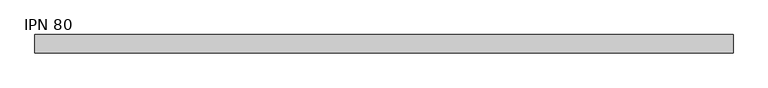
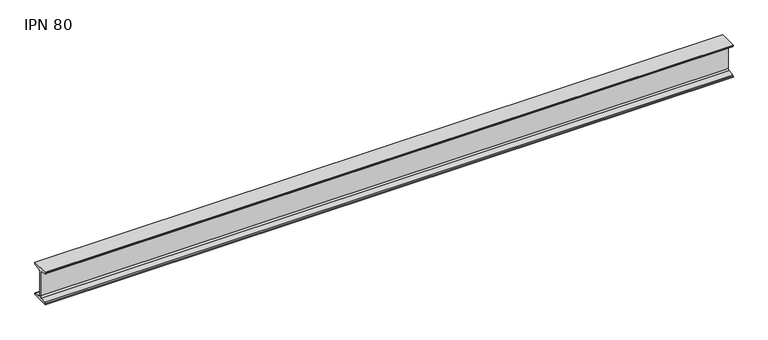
"""IFC4 building model written with IfcOpenShell, lengths in millimetres: beam geometry, IPN - Secciones en I con alas cónicas : IPN 80."""

from ifc_helpers import new_model, si_unit, point, frame, frame_2d, origin, place, context, project, spatial, polyline, circle_curve, trimmed, segment, composite_curve, outline, extrude, source, transform, mapped, element, save


def ipn_80_fcc924d6(model_context):
    return source(origin(), model_context, "Body", "SweptSolid", [
        extrude(outline(composite_curve([segment(polyline([(21.0, 40.0), (21.0, 37.5704306)]), True, "CONTINUOUS"), segment(trimmed(circle_curve(frame_2d((18.7, 37.5704306)), 2.3), [point((21.0, 37.5704306))], [point((19.01889, 35.2926446))], False, "CARTESIAN"), True, "CONTINUOUS"), segment(polyline([(19.01889, 35.2926446), (5.3092734, 33.3732983)]), True, "CONTINUOUS"), segment(trimmed(circle_curve(frame_2d((5.85, 29.5109655)), 3.9), [point((5.3092734, 33.3732983))], [point((1.95, 29.5109655))], True, "CARTESIAN"), True, "CONTINUOUS"), segment(polyline([(1.95, 29.5109655), (1.95, -29.5109655)]), True, "CONTINUOUS"), segment(trimmed(circle_curve(frame_2d((5.85, -29.5109655)), 3.9), [point((1.95, -29.5109655))], [point((5.3092734, -33.3732983))], True, "CARTESIAN"), True, "CONTINUOUS"), segment(polyline([(5.3092734, -33.3732983), (19.01889, -35.2926446)]), True, "CONTINUOUS"), segment(trimmed(circle_curve(frame_2d((18.7, -37.5704306)), 2.3), [point((19.01889, -35.2926446))], [point((21.0, -37.5704306))], False, "CARTESIAN"), True, "CONTINUOUS"), segment(polyline([(21.0, -37.5704306), (21.0, -40.0), (-21.0, -40.0), (-21.0, -37.5704306)]), True, "CONTINUOUS"), segment(trimmed(circle_curve(frame_2d((-18.7, -37.5704306)), 2.3), [point((-21.0, -37.5704306))], [point((-19.01889, -35.2926446))], False, "CARTESIAN"), True, "CONTINUOUS"), segment(polyline([(-19.01889, -35.2926446), (-5.3092734, -33.3732983)]), True, "CONTINUOUS"), segment(trimmed(circle_curve(frame_2d((-5.85, -29.5109655)), 3.9), [point((-5.3092734, -33.3732983))], [point((-1.95, -29.5109655))], True, "CARTESIAN"), True, "CONTINUOUS"), segment(polyline([(-1.95, -29.5109655), (-1.95, 29.5109655)]), True, "CONTINUOUS"), segment(trimmed(circle_curve(frame_2d((-5.85, 29.5109655)), 3.9), [point((-1.95, 29.5109655))], [point((-5.3092734, 33.3732983))], True, "CARTESIAN"), True, "CONTINUOUS"), segment(polyline([(-5.3092734, 33.3732983), (-19.01889, 35.2926446)]), True, "CONTINUOUS"), segment(trimmed(circle_curve(frame_2d((-18.7, 37.5704306)), 2.3), [point((-19.01889, 35.2926446))], [point((-21.0, 37.5704306))], False, "CARTESIAN"), True, "CONTINUOUS"), segment(polyline([(-21.0, 37.5704306), (-21.0, 40.0), (21.0, 40.0)]), True, "CONTINUOUS")], self_intersect=False)), frame((-800.0, 0.0, 0.0), z_axis=(1.0, 0.0, 0.0), x_axis=(0.0, 1.0, 0.0)), (0.0, 0.0, 1.0), 1613.0),
    ])


if __name__ == "__main__":
    model = new_model("IFC4")
    model_context = context("Model", 3, world=origin())
    ifc_project = project(units=[si_unit("LENGTHUNIT", "METRE", prefix="MILLI")], contexts=[model_context])
    site = spatial("IfcSite", under=ifc_project)
    building = spatial("IfcBuilding", under=site)
    placement = place(None, origin())
    ipn_80_shape = ipn_80_fcc924d6(model_context)
    element("IfcBeam", 1, ObjectType="IPN - Secciones en I con alas cónicas : IPN 80", at=placement, inside=building, context=model_context, shape_type="MappedRepresentation", body=[
        mapped(ipn_80_shape, transform((0.0, 0.0, 0.0), x_axis=(1.0, 0.0, 0.0), y_axis=(0.0, 1.0, 0.0), z_axis=(0.0, 0.0, 1.0))),
    ])
    save(model, "model.ifc")
